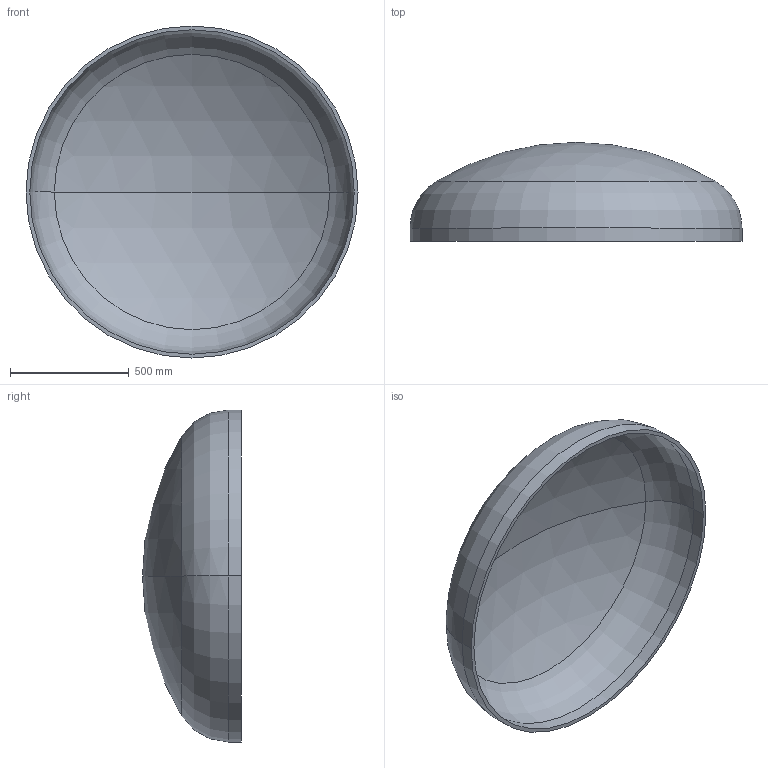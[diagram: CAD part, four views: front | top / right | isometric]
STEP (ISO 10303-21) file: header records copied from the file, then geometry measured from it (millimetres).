
FILE_DESCRIPTION (( 'STEP AP203' ), '1' );
FILE_NAME ('DIN 28013 Korbbogenform_-_Boden DIN 28013 - 1400 x 55 - I - s=16.step', '2016-07-01T10:09:12', ( '' ), ( '' ), 'SwSTEP 2.0', 'SolidWorks 2013', '' );
FILE_SCHEMA (( 'CONFIG_CONTROL_DESIGN' ));
Length unit declared in the file: millimetre
Products named in the file (1): DIN 28013 Korbbogenform_-_Boden DIN 28013 - 1400 x 55 - I - s=16
Bounding box: 1400 x 417.01 x 1400 mm (x, y, z)
Volume: 37408511.6 mm3; surface area: 4746165.9 mm2
Topology: 1 solids, 1 shells, 13 faces, 24 edges, 14 vertices
Faces by surface type: torus 4, cylinder 4, sphere 4, plane 1
Entity records: 407 total; most frequent: DIRECTION 72, CARTESIAN_POINT 52, ORIENTED_EDGE 48, AXIS2_PLACEMENT_3D 34, EDGE_CURVE 24, CIRCLE 20, VERTEX_POINT 14, EDGE_LOOP 14
